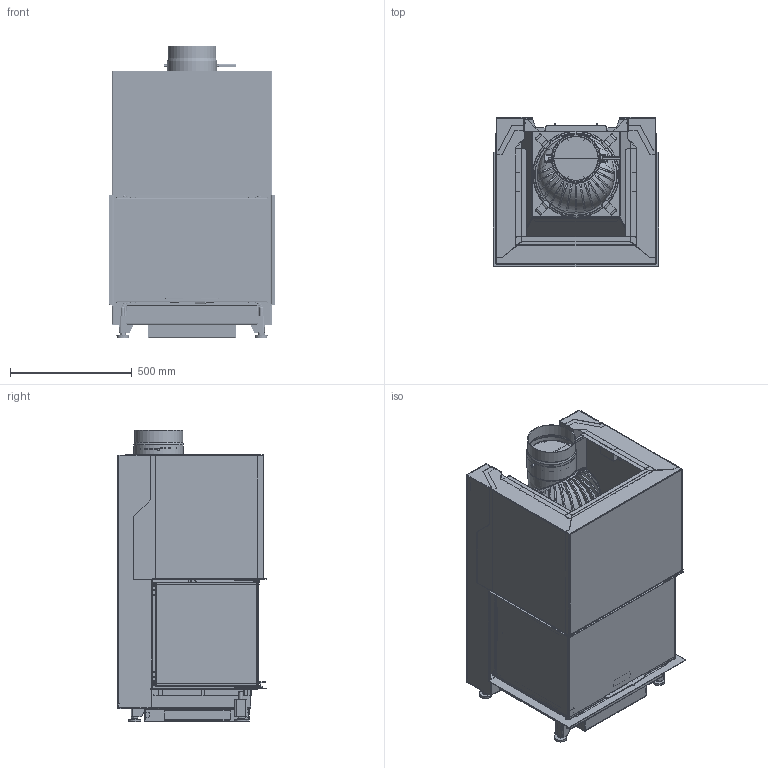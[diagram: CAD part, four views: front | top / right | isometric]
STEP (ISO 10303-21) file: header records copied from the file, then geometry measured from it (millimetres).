
FILE_DESCRIPTION(/* description */ (''),/* implementation_level */ '2;1');
FILE_NAME(/* name */ 'C:\ADSK_DM_WS\CAD_3D\03 Geraete\RIII 45x68x46\Zeichnungen\RIII 45x68x46 Gen.2 ohne Mantel Abgang oben CAD Planung defriten 2021-03125 211124.stp',/* time_stamp */ '2021-11-24T10:04:00+01:00',/* author */ ('CPI'),/* organization */ (''),/* preprocessor_version */ 'ST-DEVELOPER v18.1',/* originating_system */ 'Autodesk Inventor 2022',/* authorisation */ '');
FILE_SCHEMA (('AUTOMOTIVE_DESIGN { 1 0 10303 214 3 1 1 }'));
Products named in the file (8): 2021-03125; 2021-03103; 2021-03107; 2021-0309; 2021-03111; 2021-03113; 2021-03069; 2018-00985
Assembly tree (7 placements, depth 2):
  2021-03125
    2021-03103
    2021-03107
    2021-0309
    2021-03111
    2021-03113
    2021-03069
    2018-00985
Bounding box: 680 x 612 x 1199.43 mm (x, y, z)
Volume: 31683140.2 mm3; surface area: 14657179.3 mm2
Topology: 22 solids, 36 shells, 8182 faces, 22690 edges, 14331 vertices
Faces by surface type: plane 4961, cylinder 2826, bspline 237, cone 97, torus 60, sphere 1
Full cylindrical faces by diameter (mm): 3.242 x6, 4.8 x1, 6 x3, 7.5 x8, 7.9 x2, 10 x10, 10.21 x4, 12 x4, 16 x10, 20 x4, 30 x4, 163 x1, 194 x1, 198 x1, 200 x1, 204 x1, 333 x1, 339 x1
Entity records: 274246 total; most frequent: CARTESIAN_POINT 57726, ORIENTED_EDGE 45324, DIRECTION 44211, EDGE_CURVE 22719, LINE 15113, VECTOR 15113, AXIS2_PLACEMENT_3D 14549, VERTEX_POINT 14335
